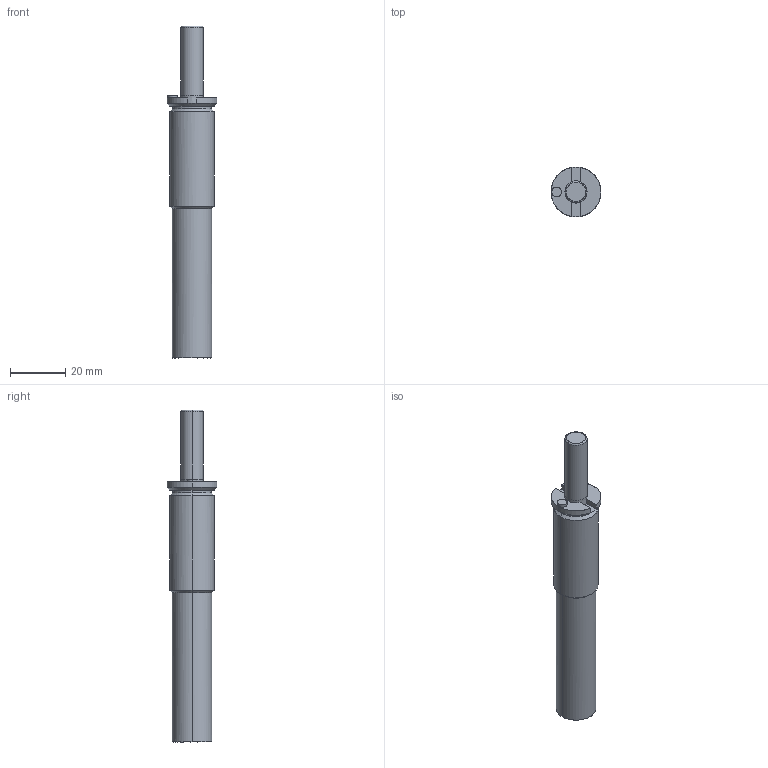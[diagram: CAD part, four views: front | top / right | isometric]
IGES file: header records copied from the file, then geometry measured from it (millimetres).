
Global section: file name: E:\UnigraphicsGraphicData\MISUMI_PRESS-PARTS\IGES\3d_mgsb16-25_04558_r00.igs; native system: NX V5.0; preprocessor: UGS NX IGES V5.0; author: MISUMI; date: 20110105.161434; units: millimetre
Bounding box: 18 x 17.97 x 120 mm (x, y, z)
Surface area: 5644.3 mm2 (no closed solid volume)
Topology: 0 solids, 0 shells, 36 faces, 200 edges, 200 vertices
Faces by surface type: bspline 36
